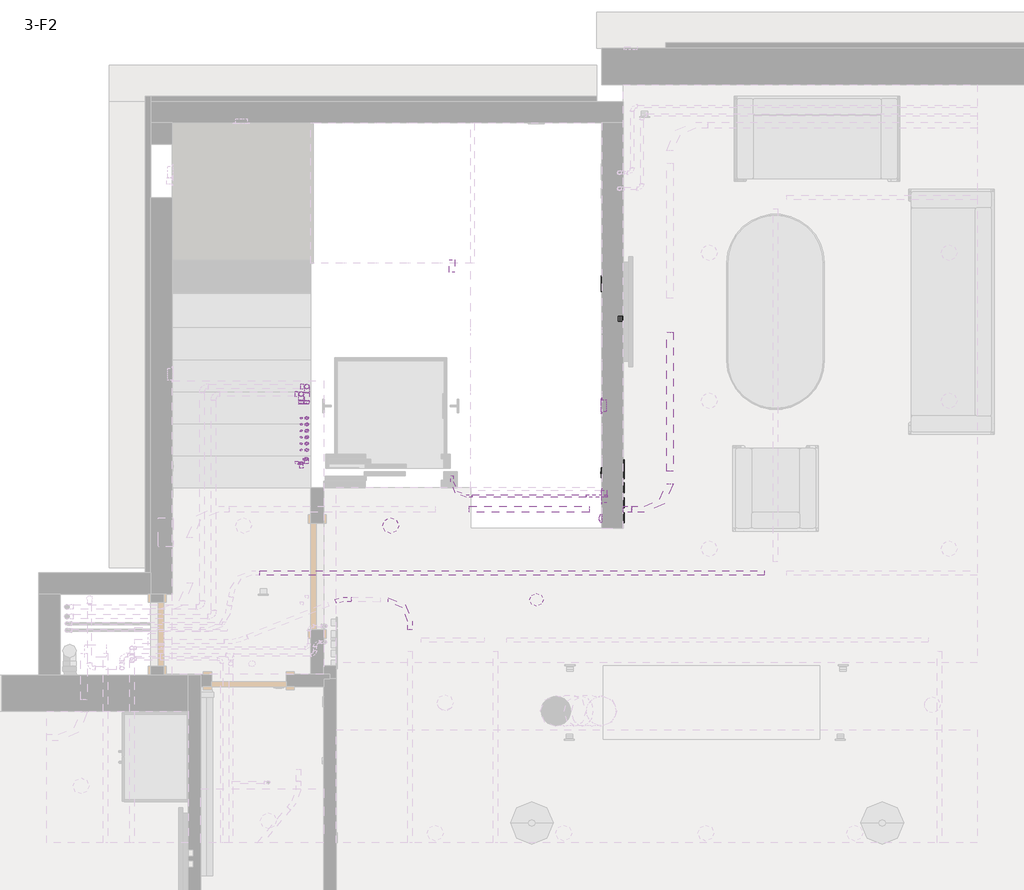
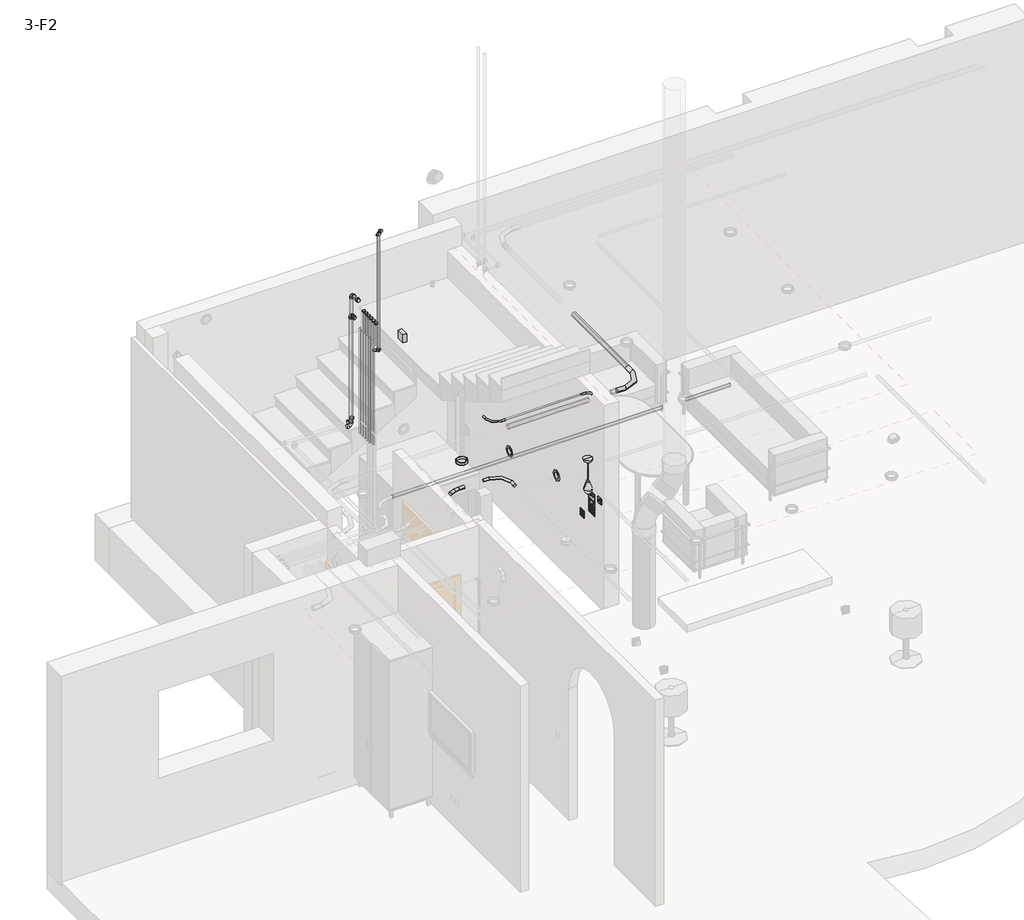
# One storey, part 10 of 12: 20 pipe segments, 17 pipe fittings, 6 cable carrier fittings, 6 cable carrier segments, 6 switching devices, 4 light fixtures, 2 proxies, 1 electric appliance.
"""IFC4 building model written with IfcOpenShell, lengths in millimetres."""

from ifc_helpers import new_model, si_unit, point, frame, frame_2d, origin, place, context, project, spatial, circle_curve, trimmed, segment, composite_curve, outline, extrude, transform, mapped, element, save
from components import mechanical_equipment_c57d0791, wall_mounted_socket_ups_wall_mounted_socket_ups_4524048d, m_conduit_elbow_aluminum_standard_a49322c3, m_conduit_elbow_aluminum_standard_c8fb4655, m_conduit_elbow_steel_standard_5c2c710b, m_conduit_elbow_steel_standard_2493cfc3, m_conduit_elbow_without_fittings_emt_standard_0e6a189b, m_conduit_junction_box_tee_aluminum_standard_8073d2f8, communication_device_4de170aa, m_downlight_recessed_can_152mm_incandescent_120v_1ee42939, m_pendant_lamp_art_glass_led_standard_2036dae1, m_recessed_lamp_round_led_e6f06c98, m_bend_pvc_sch_40_dwv_standard_48d77e49, m_bend_pvc_sch_40_dwv_standard_4a518940, m_elbow_welded_generic_standard_c3fc6815, m_elbow_welded_generic_standard_fc43898e, m_elbow_welded_generic_standard_71397803, m_reducer_pvc_sch_40_dwv_standard_054c0fc6, m_reducer_pvc_sch_40_dwv_standard_9dac7d9e, m_reducer_pvc_sch_40_dwv_standard_41a52ca3, switching_device_8f59fbb7, switching_device_ab05ab5c

model = new_model("IFC4")

# Units and contexts
model_context = context("Model", 3, world=origin())
ifc_project = project(units=[si_unit("LENGTHUNIT", "METRE", prefix="MILLI")], contexts=[model_context])

# Site, building, storey
site = spatial("IfcSite", under=ifc_project)
building = spatial("IfcBuilding", under=site)
storey = spatial("IfcBuildingStorey", under=building, Name="3-F2", Elevation=6550.0)

# Proxies
placement = place(None, origin())
mechanical_equipment_shape = mechanical_equipment_c57d0791(model_context)
element("IfcBuildingElementProxy", 1, Name="HC_Control Unit_MEPcontent_ABB_ClimaEco Sensors_HVAC-control element_INT-EN : SAF-A1.0.1-24", ObjectType="HC_Control Unit_MEPcontent_ABB_ClimaEco Sensors_HVAC-control element_INT-EN : SAF-A1.0.1-24", at=placement, inside=storey, context=model_context, shape_type="MappedRepresentation", body=[
    mapped(mechanical_equipment_shape, transform((-827.4765921, 4794.4560655, 8150.0), x_axis=(0.0, -1.0, 0.0), y_axis=(0.0, 0.0, 1.0), z_axis=(-1.0, 0.0, 0.0))),
])
wall_mounted_socket_ups_wall_mounted_socket_ups_shape = wall_mounted_socket_ups_wall_mounted_socket_ups_4524048d(model_context)
element("IfcBuildingElementProxy", 2, Name="WALL MOUNTED SOCKET UPS : WALL MOUNTED SOCKET UPS", ObjectType="WALL MOUNTED SOCKET UPS : WALL MOUNTED SOCKET UPS", at=placement, inside=storey, context=model_context, shape_type="MappedRepresentation", body=[
    mapped(wall_mounted_socket_ups_wall_mounted_socket_ups_shape, transform((-627.4765921, 6666.6620874, 7750.0), x_axis=(0.0, 1.0, 0.0), y_axis=(0.0, 0.0, 1.0), z_axis=(1.0, 0.0, 0.0))),
])

# Cable carrier fittings
m_conduit_elbow_aluminum_standard_shape = m_conduit_elbow_aluminum_standard_a49322c3(model_context)
element("IfcCableCarrierFitting", 3, ObjectType="M_Conduit Elbow - Aluminum : Standard", at=placement, inside=storey, context=model_context, shape_type="MappedRepresentation", body=[
    mapped(m_conduit_elbow_aluminum_standard_shape, transform((-191.902625, 4880.3, 9619.835), x_axis=(1.0, 0.0, 0.0), y_axis=(0.0, 1.0, 0.0), z_axis=(0.0, 0.0, 1.0))),
])
m_conduit_elbow_aluminum_standard_2_shape = m_conduit_elbow_aluminum_standard_c8fb4655(model_context)
element("IfcCableCarrierFitting", 4, ObjectType="M_Conduit Elbow - Aluminum : Standard", at=placement, inside=storey, context=model_context, shape_type="MappedRepresentation", body=[
    mapped(m_conduit_elbow_aluminum_standard_2_shape, transform((-3290.1487144, 4032.4872248, 9630.825), x_axis=(-0.9999988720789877, 0.0015019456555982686, 0.0), y_axis=(-0.0015019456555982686, -0.9999988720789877, 0.0), z_axis=(0.0, 0.0, 1.0))),
])
m_conduit_elbow_steel_standard_shape = m_conduit_elbow_steel_standard_5c2c710b(model_context)
element("IfcCableCarrierFitting", 5, ObjectType="M_Conduit Elbow - Steel : Standard", at=placement, inside=storey, context=model_context, shape_type="MappedRepresentation", body=[
    mapped(m_conduit_elbow_steel_standard_shape, transform((-2232.4765922, 5004.3506038, 9638.2902047), x_axis=(0.0, -1.0, 0.0), y_axis=(0.9999999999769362, 0.0, 6.791729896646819e-06), z_axis=(-6.791729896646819e-06, 0.0, 0.9999999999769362))),
])
m_conduit_elbow_steel_standard_2_shape = m_conduit_elbow_steel_standard_2493cfc3(model_context)
element("IfcCableCarrierFitting", 6, ObjectType="M_Conduit Elbow - Steel : Standard", at=placement, inside=storey, context=model_context, shape_type="MappedRepresentation", body=[
    mapped(m_conduit_elbow_steel_standard_2_shape, transform((-787.4765921, 5004.3506038, 9638.3000549), x_axis=(0.9999999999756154, 0.0, 6.9835049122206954e-06), y_axis=(6.9835049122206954e-06, 0.0, -0.9999999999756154), z_axis=(0.0, 1.0, 0.0))),
])
m_conduit_elbow_without_fittings_emt_standard_shape = m_conduit_elbow_without_fittings_emt_standard_0e6a189b(model_context)
element("IfcCableCarrierFitting", 7, ObjectType="M_Conduit Elbow - without Fittings - EMT : Standard", at=placement, inside=storey, context=model_context, shape_type="MappedRepresentation", body=[
    mapped(m_conduit_elbow_without_fittings_emt_standard_shape, transform((-2627.4777335, 4032.083466, 9630.825), x_axis=(-0.0006142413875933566, 0.999999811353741, 0.0), y_axis=(-0.999999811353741, -0.0006142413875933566, 0.0), z_axis=(0.0, 0.0, 1.0))),
])
m_conduit_junction_box_tee_aluminum_standard_shape = m_conduit_junction_box_tee_aluminum_standard_8073d2f8(model_context)
element("IfcCableCarrierFitting", 8, ObjectType="M_Conduit Junction Box - Tee - Aluminum : Standard", at=placement, inside=storey, context=model_context, shape_type="MappedRepresentation", body=[
    mapped(m_conduit_junction_box_tee_aluminum_standard_shape, transform((-2232.4765921, 7159.7000558, 9638.29), x_axis=(0.0, 0.0, -1.0), y_axis=(0.0, 1.0, 0.0), z_axis=(1.0, 0.0, 0.0))),
])

# Cable carrier segments
element("IfcCableCarrierSegment", 9, ObjectType="Low Current", at=placement, inside=storey, context=model_context, shape_type="SweptSolid", body=[
    extrude(outline(composite_curve([segment(trimmed(circle_curve(frame_2d((0.0, 11.71)), 11.71), [point((-11.71, 11.71))], [point((0.0, 23.42))], False, "CARTESIAN"), True, "CONTINUOUS"), segment(trimmed(circle_curve(frame_2d((0.0, 11.71)), 11.71), [point((0.0, 23.42))], [point((11.71, 11.71))], False, "CARTESIAN"), True, "CONTINUOUS"), segment(trimmed(circle_curve(frame_2d((0.0, 11.71)), 11.71), [point((11.71, 11.71))], [point((0.0, 0.0))], False, "CARTESIAN"), True, "CONTINUOUS"), segment(trimmed(circle_curve(frame_2d((0.0, 11.71)), 11.71), [point((0.0, 0.0))], [point((-11.71, 11.71))], False, "CARTESIAN"), True, "CONTINUOUS")], self_intersect=False)), frame((-2043.5640126, 5004.3506038, 9626.5814877), z_axis=(0.9999999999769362, 0.0, 6.791729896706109e-06), x_axis=(0.0, 1.0, 0.0)), (0.0, 0.0, 1.0), 1067.1740799),
])
element("IfcCableCarrierSegment", 10, ObjectType="Low Current", at=placement, inside=storey, context=model_context, shape_type="SweptSolid", body=[
    extrude(outline(composite_curve([segment(trimmed(circle_curve(frame_2d((-787.4765921, 5004.3506038)), 11.71), [point((-775.7665921, 5004.3506038))], [point((-787.4765921, 4992.6406038))], False, "CARTESIAN"), True, "CONTINUOUS"), segment(trimmed(circle_curve(frame_2d((-787.4765921, 5004.3506038)), 11.71), [point((-787.4765921, 4992.6406038))], [point((-799.1865921, 5004.3506038))], False, "CARTESIAN"), True, "CONTINUOUS"), segment(trimmed(circle_curve(frame_2d((-787.4765921, 5004.3506038)), 11.71), [point((-799.1865921, 5004.3506038))], [point((-787.4765921, 5016.0606038))], False, "CARTESIAN"), True, "CONTINUOUS"), segment(trimmed(circle_curve(frame_2d((-787.4765921, 5004.3506038)), 11.71), [point((-787.4765921, 5016.0606038))], [point((-775.7665921, 5004.3506038))], False, "CARTESIAN"), True, "CONTINUOUS")], self_intersect=False)), frame((0.0, 0.0, 8134.5), z_axis=(0.0, 0.0, 1.0), x_axis=(1.0, 0.0, 0.0)), (0.0, 0.0, 1.0), 1314.8866348),
])
element("IfcCableCarrierSegment", 11, ObjectType="Power", at=placement, inside=storey, context=model_context, shape_type="SweptSolid", body=[
    extrude(outline(composite_curve([segment(trimmed(circle_curve(frame_2d((9619.835, -191.902625)), 30.165), [point((9619.835, -222.067625))], [point((9589.67, -191.902625))], False, "CARTESIAN"), True, "CONTINUOUS"), segment(trimmed(circle_curve(frame_2d((9619.835, -191.902625)), 30.165), [point((9589.67, -191.902625))], [point((9619.835, -161.737625))], False, "CARTESIAN"), True, "CONTINUOUS"), segment(trimmed(circle_curve(frame_2d((9619.835, -191.902625)), 30.165), [point((9619.835, -161.737625))], [point((9650.0, -191.902625))], False, "CARTESIAN"), True, "CONTINUOUS"), segment(trimmed(circle_curve(frame_2d((9619.835, -191.902625)), 30.165), [point((9650.0, -191.902625))], [point((9619.835, -222.067625))], False, "CARTESIAN"), True, "CONTINUOUS")], self_intersect=False)), frame((0.0, 5235.9, 0.0), z_axis=(0.0, 1.0, 0.0), x_axis=(0.0, 0.0, 1.0)), (0.0, 0.0, 1.0), 1303.9429651),
])
element("IfcCableCarrierSegment", 12, ObjectType="Power", at=placement, inside=storey, context=model_context, shape_type="SweptSolid", body=[
    extrude(outline(composite_curve([segment(trimmed(circle_curve(frame_2d((4880.3, 9619.835)), 30.165), [point((4910.465, 9619.835))], [point((4880.3, 9589.67))], False, "CARTESIAN"), True, "CONTINUOUS"), segment(trimmed(circle_curve(frame_2d((4880.3, 9619.835)), 30.165), [point((4880.3, 9589.67))], [point((4850.135, 9619.835))], False, "CARTESIAN"), True, "CONTINUOUS"), segment(trimmed(circle_curve(frame_2d((4880.3, 9619.835)), 30.165), [point((4850.135, 9619.835))], [point((4880.3, 9650.0))], False, "CARTESIAN"), True, "CONTINUOUS"), segment(trimmed(circle_curve(frame_2d((4880.3, 9619.835)), 30.165), [point((4880.3, 9650.0))], [point((4910.465, 9619.835))], False, "CARTESIAN"), True, "CONTINUOUS")], self_intersect=False)), frame((-628.4765921, 0.0, 0.0), z_axis=(1.0, 0.0, 0.0), x_axis=(0.0, 1.0, 0.0)), (0.0, 0.0, 1.0), 80.9739671),
])
element("IfcCableCarrierSegment", 13, ObjectType="Power", at=placement, inside=storey, context=model_context, shape_type="SweptSolid", body=[
    extrude(outline(composite_curve([segment(trimmed(circle_curve(frame_2d((4880.3, 9619.835)), 30.165), [point((4850.135, 9619.835))], [point((4880.3, 9650.0))], False, "CARTESIAN"), True, "CONTINUOUS"), segment(trimmed(circle_curve(frame_2d((4880.3, 9619.835)), 30.165), [point((4880.3, 9650.0))], [point((4910.465, 9619.835))], False, "CARTESIAN"), True, "CONTINUOUS"), segment(trimmed(circle_curve(frame_2d((4880.3, 9619.835)), 30.165), [point((4910.465, 9619.835))], [point((4880.3, 9589.67))], False, "CARTESIAN"), True, "CONTINUOUS"), segment(trimmed(circle_curve(frame_2d((4880.3, 9619.835)), 30.165), [point((4880.3, 9589.67))], [point((4850.135, 9619.835))], False, "CARTESIAN"), True, "CONTINUOUS")], self_intersect=False)), frame((-2073.4765921, 0.0, 0.0), z_axis=(1.0, 0.0, 0.0), x_axis=(0.0, 1.0, 0.0)), (0.0, 0.0, 1.0), 1127.0),
])
element("IfcCableCarrierSegment", 14, ObjectType="Power", at=placement, inside=storey, context=model_context, shape_type="SweptSolid", body=[
    extrude(outline(composite_curve([segment(trimmed(circle_curve(frame_2d((4284.4560655, 9630.825)), 21.08), [point((4305.5360655, 9630.825))], [point((4284.4560655, 9609.745))], False, "CARTESIAN"), True, "CONTINUOUS"), segment(trimmed(circle_curve(frame_2d((4284.4560655, 9630.825)), 21.08), [point((4284.4560655, 9609.745))], [point((4263.3760655, 9630.825))], False, "CARTESIAN"), True, "CONTINUOUS"), segment(trimmed(circle_curve(frame_2d((4284.4560655, 9630.825)), 21.08), [point((4263.3760655, 9630.825))], [point((4284.4560655, 9651.905))], False, "CARTESIAN"), True, "CONTINUOUS"), segment(trimmed(circle_curve(frame_2d((4284.4560655, 9630.825)), 21.08), [point((4284.4560655, 9651.905))], [point((4305.5360655, 9630.825))], False, "CARTESIAN"), True, "CONTINUOUS")], self_intersect=False)), frame((-4034.2632427, 0.0, 0.0), z_axis=(1.0, 0.0, 0.0), x_axis=(0.0, 1.0, 0.0)), (0.0, 0.0, 1.0), 4726.5086718),
])

# Electric appliance
communication_device_shape = communication_device_4de170aa(model_context)
element("IfcElectricAppliance", 15, ObjectType="E_Communication Device_Intercom_F_MEPcontent_Recessed_Generic : Communication Device", at=placement, inside=storey, context=model_context, shape_type="MappedRepresentation", body=[
    mapped(communication_device_shape, transform((-827.4765921, 5001.6620874, 7985.5), x_axis=(0.0, -1.0, 0.0), y_axis=(0.0, 0.0, 1.0), z_axis=(-1.0, 0.0, 0.0))),
])

# Light fixtures
m_downlight_recessed_can_152mm_incandescent_120v_shape = m_downlight_recessed_can_152mm_incandescent_120v_1ee42939(model_context)
element("IfcLightFixture", 16, ObjectType="M_Downlight - Recessed Can : 203mm Incandescent - 277V", at=placement, inside=storey, context=model_context, shape_type="MappedRepresentation", body=[
    mapped(m_downlight_recessed_can_152mm_incandescent_120v_shape, transform((-2807.4765921, 4726.4560655, 6935.4), x_axis=(1.0, 0.0, 0.0), y_axis=(0.0, 1.0, 0.0), z_axis=(0.0, 0.0, 1.0))),
])
m_pendant_lamp_art_glass_led_standard_shape = m_pendant_lamp_art_glass_led_standard_2036dae1(model_context)
element("IfcLightFixture", 17, ObjectType="M_Pendant Lamp - Art Glass - LED : Standard", at=placement, inside=storey, context=model_context, shape_type="MappedRepresentation", body=[
    mapped(m_pendant_lamp_art_glass_led_standard_shape, transform((-1441.5636512, 4032.1398661, 9450.0), x_axis=(1.0, 0.0, 0.0), y_axis=(0.0, -1.0, 0.0), z_axis=(0.0, 0.0, -1.0))),
])
m_recessed_lamp_round_led_shape = m_recessed_lamp_round_led_e6f06c98(model_context)
element("IfcLightFixture", 18, ObjectType="M_Recessed Lamp - Round - LED : 100mm Trimless Downlight", at=placement, inside=storey, context=model_context, shape_type="MappedRepresentation", body=[
    mapped(m_recessed_lamp_round_led_shape, transform((-827.4765921, 6993.0590764, 7540.4545455), x_axis=(0.0, -1.0, 0.0), y_axis=(0.0, 0.0, 1.0), z_axis=(-1.0, 0.0, 0.0))),
])
element("IfcLightFixture", 19, ObjectType="M_Recessed Lamp - Round - LED : 100mm Trimless Downlight", at=placement, inside=storey, context=model_context, shape_type="MappedRepresentation", body=[
    mapped(m_recessed_lamp_round_led_shape, transform((-827.4765921, 5850.6530281, 7875.7177033), x_axis=(0.0, -1.0, 0.0), y_axis=(0.0, 0.0, 1.0), z_axis=(-1.0, 0.0, 0.0))),
])

# Pipe fittings
m_bend_pvc_sch_40_dwv_standard_shape = m_bend_pvc_sch_40_dwv_standard_48d77e49(model_context)
element("IfcPipeFitting", 20, ObjectType="M_Bend - PVC - Sch 40 - DWV : Standard", at=placement, inside=storey, context=model_context, shape_type="MappedRepresentation", body=[
    mapped(m_bend_pvc_sch_40_dwv_standard_shape, transform((-3594.9732649, 6030.198704, 11419.4), x_axis=(0.0, 0.0, 1.0), y_axis=(0.0, -1.0, 0.0), z_axis=(1.0, 0.0, 0.0))),
])
element("IfcPipeFitting", 21, ObjectType="M_Bend - PVC - Sch 40 - DWV : Standard", at=placement, inside=storey, context=model_context, shape_type="MappedRepresentation", body=[
    mapped(m_bend_pvc_sch_40_dwv_standard_shape, transform((-3646.9732649, 5960.4176655, 11180.4), x_axis=(0.0, 0.0, 1.0), y_axis=(0.0, -1.0, 0.0), z_axis=(1.0, 0.0, 0.0))),
])
element("IfcPipeFitting", 22, ObjectType="M_Bend - PVC - Sch 40 - DWV : Standard", at=placement, inside=storey, context=model_context, shape_type="MappedRepresentation", body=[
    mapped(m_bend_pvc_sch_40_dwv_standard_shape, transform((-3646.9732649, 5960.4176655, 9540.0), x_axis=(0.0, 0.0, -1.0), y_axis=(-1.0, 0.0, 0.0), z_axis=(0.0, 1.0, 0.0))),
])
element("IfcPipeFitting", 23, ObjectType="M_Bend - PVC - Sch 40 - DWV : Standard", at=placement, inside=storey, context=model_context, shape_type="MappedRepresentation", body=[
    mapped(m_bend_pvc_sch_40_dwv_standard_shape, transform((-3594.9732649, 6030.198704, 9540.0), x_axis=(0.0, 0.0, -1.0), y_axis=(-1.0, 0.0, 0.0), z_axis=(0.0, 1.0, 0.0))),
])
m_bend_pvc_sch_40_dwv_standard_2_shape = m_bend_pvc_sch_40_dwv_standard_4a518940(model_context)
element("IfcPipeFitting", 24, ObjectType="M_Bend - PVC - Sch 40 - DWV : Standard", at=placement, inside=storey, context=model_context, shape_type="MappedRepresentation", body=[
    mapped(m_bend_pvc_sch_40_dwv_standard_2_shape, transform((-3645.3299886, 5310.4613499, 12790.0), x_axis=(0.0, 0.0, 1.0), y_axis=(0.0, -1.0, 0.0), z_axis=(1.0, 0.0, 0.0))),
])
element("IfcPipeFitting", 25, ObjectType="M_Bend - PVC - Sch 40 - DWV : Standard", at=placement, inside=storey, context=model_context, shape_type="MappedRepresentation", body=[
    mapped(m_bend_pvc_sch_40_dwv_standard_2_shape, transform((-3597.3872699, 5350.8712523, 12790.0), x_axis=(0.0, 0.0, 1.0), y_axis=(0.0, -1.0, 0.0), z_axis=(1.0, 0.0, 0.0))),
])
m_elbow_welded_generic_standard_shape = m_elbow_welded_generic_standard_c3fc6815(model_context)
element("IfcPipeFitting", 26, ObjectType="M_Elbow - Welded - Generic : Standard", at=placement, inside=storey, context=model_context, shape_type="MappedRepresentation", body=[
    mapped(m_elbow_welded_generic_standard_shape, transform((-3692.4765921, 5310.4613499, 11049.9996375), x_axis=(0.0, -0.9999999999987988, -1.5499813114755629e-06), y_axis=(0.999999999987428, 7.7722705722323e-12, -5.01442857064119e-06), z_axis=(5.0144285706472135e-06, -1.5499813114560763e-06, 0.9999999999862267))),
])
m_elbow_welded_generic_standard_2_shape = m_elbow_welded_generic_standard_fc43898e(model_context)
element("IfcPipeFitting", 27, ObjectType="M_Elbow - Welded - Generic : Standard", at=placement, inside=storey, context=model_context, shape_type="MappedRepresentation", body=[
    mapped(m_elbow_welded_generic_standard_2_shape, transform((-3597.3864588, 5350.8712523, 10999.9992719), x_axis=(0.9999999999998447, 0.0, -5.57428282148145e-07), y_axis=(5.57428282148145e-07, 0.0, 0.9999999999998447), z_axis=(0.0, -1.0, 0.0))),
])
m_elbow_welded_generic_standard_3_shape = m_elbow_welded_generic_standard_71397803(model_context)
element("IfcPipeFitting", 28, ObjectType="M_Elbow - Welded - Generic : Standard", at=placement, inside=storey, context=model_context, shape_type="MappedRepresentation", body=[
    mapped(m_elbow_welded_generic_standard_3_shape, transform((-3645.3199723, 5310.4613499, 11049.9990732), x_axis=(0.0, 0.0, -1.0), y_axis=(-1.0, 0.0, 0.0), z_axis=(0.0, 1.0, 0.0))),
])
m_reducer_pvc_sch_40_dwv_standard_shape = m_reducer_pvc_sch_40_dwv_standard_054c0fc6(model_context)
element("IfcPipeFitting", 29, ObjectType="M_Reducer - PVC - Sch 40 - DWV : Standard", at=placement, inside=storey, context=model_context, shape_type="MappedRepresentation", body=[
    mapped(m_reducer_pvc_sch_40_dwv_standard_shape, transform((-3594.9732649, 5435.4611712, 11355.7), x_axis=(0.0, 0.0, -1.0), y_axis=(0.0, 1.0, 0.0), z_axis=(1.0, 0.0, 0.0))),
])
element("IfcPipeFitting", 30, ObjectType="M_Reducer - PVC - Sch 40 - DWV : Standard", at=placement, inside=storey, context=model_context, shape_type="MappedRepresentation", body=[
    mapped(m_reducer_pvc_sch_40_dwv_standard_shape, transform((-3594.9732649, 5555.4611712, 11355.7), x_axis=(0.0, 0.0, -1.0), y_axis=(0.0, 1.0, 0.0), z_axis=(1.0, 0.0, 0.0))),
])
element("IfcPipeFitting", 31, ObjectType="M_Reducer - PVC - Sch 40 - DWV : Standard", at=placement, inside=storey, context=model_context, shape_type="MappedRepresentation", body=[
    mapped(m_reducer_pvc_sch_40_dwv_standard_shape, transform((-3594.9732649, 5615.4611712, 11355.7), x_axis=(0.0, 0.0, -1.0), y_axis=(0.0, 1.0, 0.0), z_axis=(1.0, 0.0, 0.0))),
])
element("IfcPipeFitting", 32, ObjectType="M_Reducer - PVC - Sch 40 - DWV : Standard", at=placement, inside=storey, context=model_context, shape_type="MappedRepresentation", body=[
    mapped(m_reducer_pvc_sch_40_dwv_standard_shape, transform((-3594.9732649, 5675.4611712, 11355.7), x_axis=(0.0, 0.0, -1.0), y_axis=(0.0, 1.0, 0.0), z_axis=(1.0, 0.0, 0.0))),
])
element("IfcPipeFitting", 33, ObjectType="M_Reducer - PVC - Sch 40 - DWV : Standard", at=placement, inside=storey, context=model_context, shape_type="MappedRepresentation", body=[
    mapped(m_reducer_pvc_sch_40_dwv_standard_shape, transform((-3594.9732649, 5735.4611712, 11355.7), x_axis=(0.0, 0.0, -1.0), y_axis=(0.0, 1.0, 0.0), z_axis=(1.0, 0.0, 0.0))),
])
m_reducer_pvc_sch_40_dwv_standard_2_shape = m_reducer_pvc_sch_40_dwv_standard_9dac7d9e(model_context)
element("IfcPipeFitting", 34, ObjectType="M_Reducer - PVC - Sch 40 - DWV : Standard", at=placement, inside=storey, context=model_context, shape_type="MappedRepresentation", body=[
    mapped(m_reducer_pvc_sch_40_dwv_standard_2_shape, transform((-3594.9732649, 5495.4611712, 11334.6364062), x_axis=(0.0, 0.0, 1.0), y_axis=(0.0, -1.0, 0.0), z_axis=(1.0, 0.0, 0.0))),
])
m_reducer_pvc_sch_40_dwv_standard_3_shape = m_reducer_pvc_sch_40_dwv_standard_41a52ca3(model_context)
element("IfcPipeFitting", 35, ObjectType="M_Reducer - PVC - Sch 40 - DWV : Standard", at=placement, inside=storey, context=model_context, shape_type="MappedRepresentation", body=[
    mapped(m_reducer_pvc_sch_40_dwv_standard_3_shape, transform((-3594.9732649, 5897.3592649, 11419.4), x_axis=(0.0, -1.0, 0.0), y_axis=(1.0, 0.0, 0.0), z_axis=(0.0, 0.0, 1.0))),
])
element("IfcPipeFitting", 36, ObjectType="M_Reducer - PVC - Sch 40 - DWV : Standard", at=placement, inside=storey, context=model_context, shape_type="MappedRepresentation", body=[
    mapped(m_reducer_pvc_sch_40_dwv_standard_3_shape, transform((-3646.9732649, 5897.3592649, 11180.4), x_axis=(0.0, -1.0, 0.0), y_axis=(1.0, 0.0, 0.0), z_axis=(0.0, 0.0, 1.0))),
])

# Pipe segments
element("IfcPipeSegment", 37, ObjectType="PVC - DWV", at=placement, inside=storey, context=model_context, shape_type="SweptSolid", body=[
    extrude(outline(composite_curve([segment(trimmed(circle_curve(frame_2d((11419.4, -3594.9732649)), 21.082), [point((11419.4, -3616.0552649))], [point((11398.318, -3594.9732649))], False, "CARTESIAN"), True, "CONTINUOUS"), segment(trimmed(circle_curve(frame_2d((11419.4, -3594.9732649)), 21.082), [point((11398.318, -3594.9732649))], [point((11419.4, -3573.8912649))], False, "CARTESIAN"), True, "CONTINUOUS"), segment(trimmed(circle_curve(frame_2d((11419.4, -3594.9732649)), 21.082), [point((11419.4, -3573.8912649))], [point((11440.482, -3594.9732649))], False, "CARTESIAN"), True, "CONTINUOUS"), segment(trimmed(circle_curve(frame_2d((11419.4, -3594.9732649)), 21.082), [point((11440.482, -3594.9732649))], [point((11419.4, -3616.0552649))], False, "CARTESIAN"), True, "CONTINUOUS")], self_intersect=False)), frame((0.0, 5897.3592649, 0.0), z_axis=(0.0, 1.0, 0.0), x_axis=(0.0, 0.0, 1.0)), (0.0, 0.0, 1.0), 75.6894391),
])
element("IfcPipeSegment", 38, ObjectType="PVC - DWV", at=placement, inside=storey, context=model_context, shape_type="SweptSolid", body=[
    extrude(outline(composite_curve([segment(trimmed(circle_curve(frame_2d((0.0, -21.082)), 21.082), [point((0.0, 0.0))], [point((21.082, -21.082))], False, "CARTESIAN"), True, "CONTINUOUS"), segment(trimmed(circle_curve(frame_2d((0.0, -21.082)), 21.082), [point((21.082, -21.082))], [point((0.0, -42.164))], False, "CARTESIAN"), True, "CONTINUOUS"), segment(trimmed(circle_curve(frame_2d((0.0, -21.082)), 21.082), [point((0.0, -42.164))], [point((-21.082, -21.082))], False, "CARTESIAN"), True, "CONTINUOUS"), segment(trimmed(circle_curve(frame_2d((0.0, -21.082)), 21.082), [point((-21.082, -21.082))], [point((0.0, 0.0))], False, "CARTESIAN"), True, "CONTINUOUS")], self_intersect=False)), frame((-3668.0552649, 5897.3592649, 11180.4), z_axis=(2.2086750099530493e-12, 1.0, 0.0), x_axis=(0.0, 0.0, -1.0)), (0.0, 0.0, 1.0), 5.9084005),
])
element("IfcPipeSegment", 39, ObjectType="PVC - DWV", at=placement, inside=storey, context=model_context, shape_type="SweptSolid", body=[
    extrude(outline(composite_curve([segment(trimmed(circle_curve(frame_2d((-3646.9732649, 5735.4611712)), 9.525), [point((-3637.4482649, 5735.4611712))], [point((-3646.9732649, 5725.9361712))], False, "CARTESIAN"), True, "CONTINUOUS"), segment(trimmed(circle_curve(frame_2d((-3646.9732649, 5735.4611712)), 9.525), [point((-3646.9732649, 5725.9361712))], [point((-3656.4982649, 5735.4611712))], False, "CARTESIAN"), True, "CONTINUOUS"), segment(trimmed(circle_curve(frame_2d((-3646.9732649, 5735.4611712)), 9.525), [point((-3656.4982649, 5735.4611712))], [point((-3646.9732649, 5744.9861712))], False, "CARTESIAN"), True, "CONTINUOUS"), segment(trimmed(circle_curve(frame_2d((-3646.9732649, 5735.4611712)), 9.525), [point((-3646.9732649, 5744.9861712))], [point((-3637.4482649, 5735.4611712))], False, "CARTESIAN"), True, "CONTINUOUS")], self_intersect=False)), frame((0.0, 0.0, 9557.942774), z_axis=(0.0, 0.0, 1.0), x_axis=(1.0, 0.0, 0.0)), (0.0, 0.0, 1.0), 1558.757226),
])
element("IfcPipeSegment", 40, ObjectType="PVC - DWV", at=placement, inside=storey, context=model_context, shape_type="SweptSolid", body=[
    extrude(outline(composite_curve([segment(trimmed(circle_curve(frame_2d((-3646.9732649, 5675.4611712)), 9.525), [point((-3637.4482649, 5675.4611712))], [point((-3646.9732649, 5665.9361712))], False, "CARTESIAN"), True, "CONTINUOUS"), segment(trimmed(circle_curve(frame_2d((-3646.9732649, 5675.4611712)), 9.525), [point((-3646.9732649, 5665.9361712))], [point((-3656.4982649, 5675.4611712))], False, "CARTESIAN"), True, "CONTINUOUS"), segment(trimmed(circle_curve(frame_2d((-3646.9732649, 5675.4611712)), 9.525), [point((-3656.4982649, 5675.4611712))], [point((-3646.9732649, 5684.9861712))], False, "CARTESIAN"), True, "CONTINUOUS"), segment(trimmed(circle_curve(frame_2d((-3646.9732649, 5675.4611712)), 9.525), [point((-3646.9732649, 5684.9861712))], [point((-3637.4482649, 5675.4611712))], False, "CARTESIAN"), True, "CONTINUOUS")], self_intersect=False)), frame((0.0, 0.0, 9557.942742), z_axis=(0.0, 0.0, 1.0), x_axis=(1.0, 0.0, 0.0)), (0.0, 0.0, 1.0), 1558.757258),
])
element("IfcPipeSegment", 41, ObjectType="PVC - DWV", at=placement, inside=storey, context=model_context, shape_type="SweptSolid", body=[
    extrude(outline(composite_curve([segment(trimmed(circle_curve(frame_2d((-3646.9732649, 5615.4611712)), 9.525), [point((-3637.4482649, 5615.4611712))], [point((-3646.9732649, 5605.9361712))], False, "CARTESIAN"), True, "CONTINUOUS"), segment(trimmed(circle_curve(frame_2d((-3646.9732649, 5615.4611712)), 9.525), [point((-3646.9732649, 5605.9361712))], [point((-3656.4982649, 5615.4611712))], False, "CARTESIAN"), True, "CONTINUOUS"), segment(trimmed(circle_curve(frame_2d((-3646.9732649, 5615.4611712)), 9.525), [point((-3656.4982649, 5615.4611712))], [point((-3646.9732649, 5624.9861712))], False, "CARTESIAN"), True, "CONTINUOUS"), segment(trimmed(circle_curve(frame_2d((-3646.9732649, 5615.4611712)), 9.525), [point((-3646.9732649, 5624.9861712))], [point((-3637.4482649, 5615.4611712))], False, "CARTESIAN"), True, "CONTINUOUS")], self_intersect=False)), frame((0.0, 0.0, 9557.9427434), z_axis=(0.0, 0.0, 1.0), x_axis=(1.0, 0.0, 0.0)), (0.0, 0.0, 1.0), 1558.7572566),
])
element("IfcPipeSegment", 42, ObjectType="PVC - DWV", at=placement, inside=storey, context=model_context, shape_type="SweptSolid", body=[
    extrude(outline(composite_curve([segment(trimmed(circle_curve(frame_2d((-3646.9732649, 5555.4611712)), 9.525), [point((-3637.4482649, 5555.4611712))], [point((-3646.9732649, 5545.9361712))], False, "CARTESIAN"), True, "CONTINUOUS"), segment(trimmed(circle_curve(frame_2d((-3646.9732649, 5555.4611712)), 9.525), [point((-3646.9732649, 5545.9361712))], [point((-3656.4982649, 5555.4611712))], False, "CARTESIAN"), True, "CONTINUOUS"), segment(trimmed(circle_curve(frame_2d((-3646.9732649, 5555.4611712)), 9.525), [point((-3656.4982649, 5555.4611712))], [point((-3646.9732649, 5564.9861712))], False, "CARTESIAN"), True, "CONTINUOUS"), segment(trimmed(circle_curve(frame_2d((-3646.9732649, 5555.4611712)), 9.525), [point((-3646.9732649, 5564.9861712))], [point((-3637.4482649, 5555.4611712))], False, "CARTESIAN"), True, "CONTINUOUS")], self_intersect=False)), frame((0.0, 0.0, 9557.9427466), z_axis=(0.0, 0.0, 1.0), x_axis=(1.0, 0.0, 0.0)), (0.0, 0.0, 1.0), 1558.7572534),
])
element("IfcPipeSegment", 43, ObjectType="PVC - DWV", at=placement, inside=storey, context=model_context, shape_type="SweptSolid", body=[
    extrude(outline(composite_curve([segment(trimmed(circle_curve(frame_2d((0.0, 9.525)), 9.525), [point((-9.525, 9.525))], [point((0.0, 19.05))], False, "CARTESIAN"), True, "CONTINUOUS"), segment(trimmed(circle_curve(frame_2d((0.0, 9.525)), 9.525), [point((0.0, 19.05))], [point((9.525, 9.525))], False, "CARTESIAN"), True, "CONTINUOUS"), segment(trimmed(circle_curve(frame_2d((0.0, 9.525)), 9.525), [point((9.525, 9.525))], [point((0.0, 0.0))], False, "CARTESIAN"), True, "CONTINUOUS"), segment(trimmed(circle_curve(frame_2d((0.0, 9.525)), 9.525), [point((0.0, 0.0))], [point((-9.525, 9.525))], False, "CARTESIAN"), True, "CONTINUOUS")], self_intersect=False)), frame((-3646.9732649, 5425.9363478, 11067.942712), z_axis=(0.0, -3.621627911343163e-06, 0.9999999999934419), x_axis=(1.0, 0.0, 0.0)), (0.0, 0.0, 1.0), 48.7572535),
])
element("IfcPipeSegment", 44, ObjectType="PVC - DWV", at=placement, inside=storey, context=model_context, shape_type="SweptSolid", body=[
    extrude(outline(composite_curve([segment(trimmed(circle_curve(frame_2d((-3646.9732649, 5495.4611712)), 9.525), [point((-3656.4982649, 5495.4611712))], [point((-3646.9732649, 5504.9861712))], False, "CARTESIAN"), True, "CONTINUOUS"), segment(trimmed(circle_curve(frame_2d((-3646.9732649, 5495.4611712)), 9.525), [point((-3646.9732649, 5504.9861712))], [point((-3637.4482649, 5495.4611712))], False, "CARTESIAN"), True, "CONTINUOUS"), segment(trimmed(circle_curve(frame_2d((-3646.9732649, 5495.4611712)), 9.525), [point((-3637.4482649, 5495.4611712))], [point((-3646.9732649, 5485.9361712))], False, "CARTESIAN"), True, "CONTINUOUS"), segment(trimmed(circle_curve(frame_2d((-3646.9732649, 5495.4611712)), 9.525), [point((-3646.9732649, 5485.9361712))], [point((-3656.4982649, 5495.4611712))], False, "CARTESIAN"), True, "CONTINUOUS")], self_intersect=False)), frame((0.0, 0.0, 9557.9427448), z_axis=(0.0, 0.0, 1.0), x_axis=(1.0, 0.0, 0.0)), (0.0, 0.0, 1.0), 1558.7572552),
])
element("IfcPipeSegment", 45, ObjectType="PVC - DWV", at=placement, inside=storey, context=model_context, shape_type="SweptSolid", body=[
    extrude(outline(composite_curve([segment(trimmed(circle_curve(frame_2d((-3594.9732649, 5735.4611712)), 9.55), [point((-3585.4232649, 5735.4611712))], [point((-3594.9732649, 5725.9111712))], False, "CARTESIAN"), True, "CONTINUOUS"), segment(trimmed(circle_curve(frame_2d((-3594.9732649, 5735.4611712)), 9.55), [point((-3594.9732649, 5725.9111712))], [point((-3604.5232649, 5735.4611712))], False, "CARTESIAN"), True, "CONTINUOUS"), segment(trimmed(circle_curve(frame_2d((-3594.9732649, 5735.4611712)), 9.55), [point((-3604.5232649, 5735.4611712))], [point((-3594.9732649, 5745.0111712))], False, "CARTESIAN"), True, "CONTINUOUS"), segment(trimmed(circle_curve(frame_2d((-3594.9732649, 5735.4611712)), 9.55), [point((-3594.9732649, 5745.0111712))], [point((-3585.4232649, 5735.4611712))], False, "CARTESIAN"), True, "CONTINUOUS")], self_intersect=False)), frame((0.0, 0.0, 9517.9090582), z_axis=(0.0, 0.0, 1.0), x_axis=(1.0, 0.0, 0.0)), (0.0, 0.0, 1.0), 1816.727348),
])
element("IfcPipeSegment", 46, ObjectType="PVC - DWV", at=placement, inside=storey, context=model_context, shape_type="SweptSolid", body=[
    extrude(outline(composite_curve([segment(trimmed(circle_curve(frame_2d((-3594.9732649, 5675.4611712)), 9.55), [point((-3585.4232649, 5675.4611712))], [point((-3594.9732649, 5665.9111712))], False, "CARTESIAN"), True, "CONTINUOUS"), segment(trimmed(circle_curve(frame_2d((-3594.9732649, 5675.4611712)), 9.55), [point((-3594.9732649, 5665.9111712))], [point((-3604.5232649, 5675.4611712))], False, "CARTESIAN"), True, "CONTINUOUS"), segment(trimmed(circle_curve(frame_2d((-3594.9732649, 5675.4611712)), 9.55), [point((-3604.5232649, 5675.4611712))], [point((-3594.9732649, 5685.0111712))], False, "CARTESIAN"), True, "CONTINUOUS"), segment(trimmed(circle_curve(frame_2d((-3594.9732649, 5675.4611712)), 9.55), [point((-3594.9732649, 5685.0111712))], [point((-3585.4232649, 5675.4611712))], False, "CARTESIAN"), True, "CONTINUOUS")], self_intersect=False)), frame((0.0, 0.0, 9517.9090964), z_axis=(0.0, 0.0, 1.0), x_axis=(1.0, 0.0, 0.0)), (0.0, 0.0, 1.0), 1816.7273098),
])
element("IfcPipeSegment", 47, ObjectType="PVC - DWV", at=placement, inside=storey, context=model_context, shape_type="SweptSolid", body=[
    extrude(outline(composite_curve([segment(trimmed(circle_curve(frame_2d((-3594.9732649, 5615.4611712)), 9.55), [point((-3585.4232649, 5615.4611712))], [point((-3594.9732649, 5605.9111712))], False, "CARTESIAN"), True, "CONTINUOUS"), segment(trimmed(circle_curve(frame_2d((-3594.9732649, 5615.4611712)), 9.55), [point((-3594.9732649, 5605.9111712))], [point((-3604.5232649, 5615.4611712))], False, "CARTESIAN"), True, "CONTINUOUS"), segment(trimmed(circle_curve(frame_2d((-3594.9732649, 5615.4611712)), 9.55), [point((-3604.5232649, 5615.4611712))], [point((-3594.9732649, 5625.0111712))], False, "CARTESIAN"), True, "CONTINUOUS"), segment(trimmed(circle_curve(frame_2d((-3594.9732649, 5615.4611712)), 9.55), [point((-3594.9732649, 5625.0111712))], [point((-3585.4232649, 5615.4611712))], False, "CARTESIAN"), True, "CONTINUOUS")], self_intersect=False)), frame((0.0, 0.0, 9517.9090964), z_axis=(0.0, 0.0, 1.0), x_axis=(1.0, 0.0, 0.0)), (0.0, 0.0, 1.0), 1816.7273098),
])
element("IfcPipeSegment", 48, ObjectType="PVC - DWV", at=placement, inside=storey, context=model_context, shape_type="SweptSolid", body=[
    extrude(outline(composite_curve([segment(trimmed(circle_curve(frame_2d((-3594.9732649, 5555.4611712)), 9.55), [point((-3585.4232649, 5555.4611712))], [point((-3594.9732649, 5545.9111712))], False, "CARTESIAN"), True, "CONTINUOUS"), segment(trimmed(circle_curve(frame_2d((-3594.9732649, 5555.4611712)), 9.55), [point((-3594.9732649, 5545.9111712))], [point((-3604.5232649, 5555.4611712))], False, "CARTESIAN"), True, "CONTINUOUS"), segment(trimmed(circle_curve(frame_2d((-3594.9732649, 5555.4611712)), 9.55), [point((-3604.5232649, 5555.4611712))], [point((-3594.9732649, 5565.0111712))], False, "CARTESIAN"), True, "CONTINUOUS"), segment(trimmed(circle_curve(frame_2d((-3594.9732649, 5555.4611712)), 9.55), [point((-3594.9732649, 5565.0111712))], [point((-3585.4232649, 5555.4611712))], False, "CARTESIAN"), True, "CONTINUOUS")], self_intersect=False)), frame((0.0, 0.0, 9517.9090892), z_axis=(0.0, 0.0, 1.0), x_axis=(1.0, 0.0, 0.0)), (0.0, 0.0, 1.0), 1816.7273171),
])
element("IfcPipeSegment", 49, ObjectType="PVC - DWV", at=placement, inside=storey, context=model_context, shape_type="SweptSolid", body=[
    extrude(outline(composite_curve([segment(trimmed(circle_curve(frame_2d((-3594.9732649, 5495.4611712)), 9.55), [point((-3604.5232649, 5495.4611712))], [point((-3594.9732649, 5505.0111712))], False, "CARTESIAN"), True, "CONTINUOUS"), segment(trimmed(circle_curve(frame_2d((-3594.9732649, 5495.4611712)), 9.55), [point((-3594.9732649, 5505.0111712))], [point((-3585.4232649, 5495.4611712))], False, "CARTESIAN"), True, "CONTINUOUS"), segment(trimmed(circle_curve(frame_2d((-3594.9732649, 5495.4611712)), 9.55), [point((-3585.4232649, 5495.4611712))], [point((-3594.9732649, 5485.9111712))], False, "CARTESIAN"), True, "CONTINUOUS"), segment(trimmed(circle_curve(frame_2d((-3594.9732649, 5495.4611712)), 9.55), [point((-3594.9732649, 5485.9111712))], [point((-3604.5232649, 5495.4611712))], False, "CARTESIAN"), True, "CONTINUOUS")], self_intersect=False)), frame((0.0, 0.0, 9517.9090859), z_axis=(0.0, 0.0, 1.0), x_axis=(1.0, 0.0, 0.0)), (0.0, 0.0, 1.0), 1816.7273203),
])
element("IfcPipeSegment", 50, ObjectType="PVC - DWV", at=placement, inside=storey, context=model_context, shape_type="SweptSolid", body=[
    extrude(outline(composite_curve([segment(trimmed(circle_curve(frame_2d((0.0, -9.55)), 9.55), [point((-9.55, -9.55))], [point((0.0, 0.0))], False, "CARTESIAN"), True, "CONTINUOUS"), segment(trimmed(circle_curve(frame_2d((0.0, -9.55)), 9.55), [point((0.0, 0.0))], [point((9.55, -9.55))], False, "CARTESIAN"), True, "CONTINUOUS"), segment(trimmed(circle_curve(frame_2d((0.0, -9.55)), 9.55), [point((9.55, -9.55))], [point((0.0, -19.1))], False, "CARTESIAN"), True, "CONTINUOUS"), segment(trimmed(circle_curve(frame_2d((0.0, -9.55)), 9.55), [point((0.0, -19.1))], [point((-9.55, -9.55))], False, "CARTESIAN"), True, "CONTINUOUS")], self_intersect=False)), frame((-3594.9732649, 5425.9113481, 11017.9090994), z_axis=(0.0, -5.586410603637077e-07, 0.999999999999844), x_axis=(-1.0, 0.0, 0.0)), (0.0, 0.0, 1.0), 316.7273015),
])
element("IfcPipeSegment", 51, ObjectType="PVC - DWV", at=placement, inside=storey, context=model_context, shape_type="SweptSolid", body=[
    extrude(outline(composite_curve([segment(trimmed(circle_curve(frame_2d((-3646.9732649, 5960.4176655)), 21.082), [point((-3625.8912649, 5960.4176655))], [point((-3646.9732649, 5939.3356655))], False, "CARTESIAN"), True, "CONTINUOUS"), segment(trimmed(circle_curve(frame_2d((-3646.9732649, 5960.4176655)), 21.082), [point((-3646.9732649, 5939.3356655))], [point((-3668.0552649, 5960.4176655))], False, "CARTESIAN"), True, "CONTINUOUS"), segment(trimmed(circle_curve(frame_2d((-3646.9732649, 5960.4176655)), 21.082), [point((-3668.0552649, 5960.4176655))], [point((-3646.9732649, 5981.4996655))], False, "CARTESIAN"), True, "CONTINUOUS"), segment(trimmed(circle_curve(frame_2d((-3646.9732649, 5960.4176655)), 21.082), [point((-3646.9732649, 5981.4996655))], [point((-3625.8912649, 5960.4176655))], False, "CARTESIAN"), True, "CONTINUOUS")], self_intersect=False)), frame((0.0, 0.0, 9597.15), z_axis=(0.0, 0.0, 1.0), x_axis=(1.0, 0.0, 0.0)), (0.0, 0.0, 1.0), 1526.1),
])
element("IfcPipeSegment", 52, ObjectType="PVC - DWV", at=placement, inside=storey, context=model_context, shape_type="SweptSolid", body=[
    extrude(outline(composite_curve([segment(trimmed(circle_curve(frame_2d((-3594.9732649, 6030.198704)), 21.082), [point((-3573.8912649, 6030.198704))], [point((-3594.9732649, 6009.116704))], False, "CARTESIAN"), True, "CONTINUOUS"), segment(trimmed(circle_curve(frame_2d((-3594.9732649, 6030.198704)), 21.082), [point((-3594.9732649, 6009.116704))], [point((-3616.0552649, 6030.198704))], False, "CARTESIAN"), True, "CONTINUOUS"), segment(trimmed(circle_curve(frame_2d((-3594.9732649, 6030.198704)), 21.082), [point((-3616.0552649, 6030.198704))], [point((-3594.9732649, 6051.280704))], False, "CARTESIAN"), True, "CONTINUOUS"), segment(trimmed(circle_curve(frame_2d((-3594.9732649, 6030.198704)), 21.082), [point((-3594.9732649, 6051.280704))], [point((-3573.8912649, 6030.198704))], False, "CARTESIAN"), True, "CONTINUOUS")], self_intersect=False)), frame((0.0, 0.0, 9597.15), z_axis=(0.0, 0.0, 1.0), x_axis=(1.0, 0.0, 0.0)), (0.0, 0.0, 1.0), 1765.1),
])
element("IfcPipeSegment", 53, ObjectType="PVC - DWV", at=placement, inside=storey, context=model_context, shape_type="SweptSolid", body=[
    extrude(outline(composite_curve([segment(trimmed(circle_curve(frame_2d((5350.8712523, 10999.9992896)), 9.55), [point((5341.3212523, 10999.9992896))], [point((5350.8712523, 11009.5492896))], False, "CARTESIAN"), True, "CONTINUOUS"), segment(trimmed(circle_curve(frame_2d((5350.8712523, 10999.9992896)), 9.55), [point((5350.8712523, 11009.5492896))], [point((5360.4212523, 10999.9992896))], False, "CARTESIAN"), True, "CONTINUOUS"), segment(trimmed(circle_curve(frame_2d((5350.8712523, 10999.9992896)), 9.55), [point((5360.4212523, 10999.9992896))], [point((5350.8712523, 10990.4492896))], False, "CARTESIAN"), True, "CONTINUOUS"), segment(trimmed(circle_curve(frame_2d((5350.8712523, 10999.9992896)), 9.55), [point((5350.8712523, 10990.4492896))], [point((5341.3212523, 10999.9992896))], False, "CARTESIAN"), True, "CONTINUOUS")], self_intersect=False)), frame((-3629.0642806, 0.0, 0.0), z_axis=(1.0, 0.0, 0.0), x_axis=(0.0, 1.0, 0.0)), (0.0, 0.0, 1.0), 13.7688274),
])
element("IfcPipeSegment", 54, ObjectType="PVC - DWV", at=placement, inside=storey, context=model_context, shape_type="SweptSolid", body=[
    extrude(outline(composite_curve([segment(trimmed(circle_curve(frame_2d((0.0, -9.55)), 9.55), [point((-9.55, -9.55))], [point((0.0, 0.0))], False, "CARTESIAN"), True, "CONTINUOUS"), segment(trimmed(circle_curve(frame_2d((0.0, -9.55)), 9.55), [point((0.0, 0.0))], [point((9.55, -9.55))], False, "CARTESIAN"), True, "CONTINUOUS"), segment(trimmed(circle_curve(frame_2d((0.0, -9.55)), 9.55), [point((9.55, -9.55))], [point((0.0, -19.1))], False, "CARTESIAN"), True, "CONTINUOUS"), segment(trimmed(circle_curve(frame_2d((0.0, -9.55)), 9.55), [point((0.0, -19.1))], [point((-9.55, -9.55))], False, "CARTESIAN"), True, "CONTINUOUS")], self_intersect=False)), frame((-3597.3864588, 5341.3212523, 11017.9082663), z_axis=(-4.697868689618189e-07, 0.0, 0.9999999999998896), x_axis=(-0.9999999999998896, 0.0, -4.697868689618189e-07)), (0.0, 0.0, 1.0), 1726.4376712),
])
element("IfcPipeSegment", 55, ObjectType="PVC - DWV", at=placement, inside=storey, context=model_context, shape_type="SweptSolid", body=[
    extrude(outline(composite_curve([segment(trimmed(circle_curve(frame_2d((5310.4613499, 11049.9994908)), 9.55), [point((5320.0113499, 11049.9994908))], [point((5310.4613499, 11040.4494908))], False, "CARTESIAN"), True, "CONTINUOUS"), segment(trimmed(circle_curve(frame_2d((5310.4613499, 11049.9994908)), 9.55), [point((5310.4613499, 11040.4494908))], [point((5300.9113499, 11049.9994908))], False, "CARTESIAN"), True, "CONTINUOUS"), segment(trimmed(circle_curve(frame_2d((5310.4613499, 11049.9994908)), 9.55), [point((5300.9113499, 11049.9994908))], [point((5310.4613499, 11059.5494908))], False, "CARTESIAN"), True, "CONTINUOUS"), segment(trimmed(circle_curve(frame_2d((5310.4613499, 11049.9994908)), 9.55), [point((5310.4613499, 11059.5494908))], [point((5320.0113499, 11049.9994908))], False, "CARTESIAN"), True, "CONTINUOUS")], self_intersect=False)), frame((-3674.5676078, 0.0, 0.0), z_axis=(1.0, 0.0, 0.0), x_axis=(0.0, 1.0, 0.0)), (0.0, 0.0, 1.0), 11.3382335),
])
element("IfcPipeSegment", 56, ObjectType="PVC - DWV", at=placement, inside=storey, context=model_context, shape_type="SweptSolid", body=[
    extrude(outline(composite_curve([segment(trimmed(circle_curve(frame_2d((0.0, 9.55)), 9.55), [point((-9.55, 9.55))], [point((0.0, 19.1))], False, "CARTESIAN"), True, "CONTINUOUS"), segment(trimmed(circle_curve(frame_2d((0.0, 9.55)), 9.55), [point((0.0, 19.1))], [point((9.55, 9.55))], False, "CARTESIAN"), True, "CONTINUOUS"), segment(trimmed(circle_curve(frame_2d((0.0, 9.55)), 9.55), [point((9.55, 9.55))], [point((0.0, 0.0))], False, "CARTESIAN"), True, "CONTINUOUS"), segment(trimmed(circle_curve(frame_2d((0.0, 9.55)), 9.55), [point((0.0, 0.0))], [point((-9.55, 9.55))], False, "CARTESIAN"), True, "CONTINUOUS")], self_intersect=False)), frame((-3645.3199723, 5300.9113499, 11067.9084752), z_axis=(-5.974753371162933e-06, 0.0, 0.9999999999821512), x_axis=(0.9999999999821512, 0.0, 5.974753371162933e-06)), (0.0, 0.0, 1.0), 1676.4374623),
])

# Switching devices
switching_device_shape = switching_device_8f59fbb7(model_context)
element("IfcSwitchingDevice", 57, ObjectType="TWO WAY ONE GANG LIGHTING SWICH : TWO WAY ONE GANG LIGHTING SWICH", at=placement, inside=storey, context=model_context, shape_type="MappedRepresentation", body=[
    mapped(switching_device_shape, transform((-627.4765921, 5084.4560655, 7700.0), x_axis=(0.0, 1.0, 0.0), y_axis=(0.0, 0.0, 1.0), z_axis=(1.0, 0.0, 0.0))),
])
element("IfcSwitchingDevice", 58, ObjectType="TWO WAY ONE GANG LIGHTING SWICH : TWO WAY ONE GANG LIGHTING SWICH", at=placement, inside=storey, context=model_context, shape_type="MappedRepresentation", body=[
    mapped(switching_device_shape, transform((-627.4765921, 5214.4560655, 7700.0), x_axis=(0.0, 1.0, 0.0), y_axis=(0.0, 0.0, 1.0), z_axis=(1.0, 0.0, 0.0))),
])
element("IfcSwitchingDevice", 59, ObjectType="TWO WAY ONE GANG LIGHTING SWICH : TWO WAY ONE GANG LIGHTING SWICH", at=placement, inside=storey, context=model_context, shape_type="MappedRepresentation", body=[
    mapped(switching_device_shape, transform((-827.4765921, 5224.4560655, 7700.0), x_axis=(0.0, -1.0, 0.0), y_axis=(0.0, 0.0, 1.0), z_axis=(-1.0, 0.0, 0.0))),
])
element("IfcSwitchingDevice", 60, ObjectType="TWO WAY ONE GANG LIGHTING SWICH : TWO WAY ONE GANG LIGHTING SWICH", at=placement, inside=storey, context=model_context, shape_type="MappedRepresentation", body=[
    mapped(switching_device_shape, transform((-627.4765921, 4939.6560655, 7700.0), x_axis=(0.0, 1.0, 0.0), y_axis=(0.0, 0.0, 1.0), z_axis=(1.0, 0.0, 0.0))),
])
element("IfcSwitchingDevice", 61, ObjectType="TWO WAY ONE GANG LIGHTING SWICH : TWO WAY ONE GANG LIGHTING SWICH", at=placement, inside=storey, context=model_context, shape_type="MappedRepresentation", body=[
    mapped(switching_device_shape, transform((-627.4765921, 4799.6560655, 7700.0), x_axis=(0.0, 1.0, 0.0), y_axis=(0.0, 0.0, 1.0), z_axis=(1.0, 0.0, 0.0))),
])
switching_device_2_shape = switching_device_ab05ab5c(model_context)
element("IfcSwitchingDevice", 62, ObjectType="ONE WAY ONE GANG LIGHTING SWICH : ONE WAY ONE GANG LIGHTING SWICH", at=placement, inside=storey, context=model_context, shape_type="MappedRepresentation", body=[
    mapped(switching_device_2_shape, transform((-627.4765921, 5298.1878228, 7700.0), x_axis=(0.0, 1.0, 0.0), y_axis=(0.0, 0.0, 1.0), z_axis=(1.0, 0.0, 0.0))),
])

save(model, "model.ifc")
